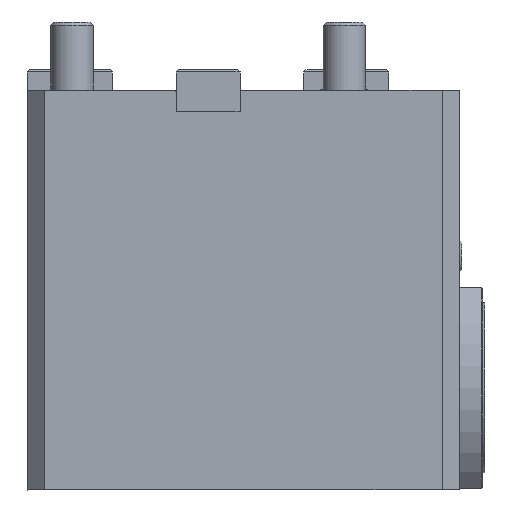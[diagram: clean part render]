
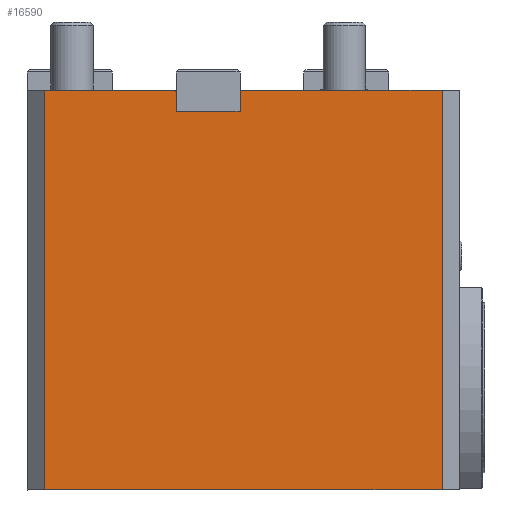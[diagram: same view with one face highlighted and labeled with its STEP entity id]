
A CAD part, front view. The second image highlights one B-rep face of the part: STEP entity #16590.
In plain terms, the highlighted planar face has unit normal (0, -1, 0) as drawn and (0, 0, 1) by its records, which use the part's own axes.
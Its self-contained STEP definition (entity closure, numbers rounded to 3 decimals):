
#8133=ORIENTED_EDGE('',*,*,#10606,.T.);
#8134=ORIENTED_EDGE('',*,*,#10656,.T.);
#8135=ORIENTED_EDGE('',*,*,#10647,.T.);
#8136=ORIENTED_EDGE('',*,*,#10651,.T.);
#8137=ORIENTED_EDGE('',*,*,#10653,.F.);
#8138=ORIENTED_EDGE('',*,*,#10654,.F.);
#8139=ORIENTED_EDGE('',*,*,#10657,.F.);
#8140=ORIENTED_EDGE('',*,*,#10658,.T.);
#8141=ORIENTED_EDGE('',*,*,#10659,.T.);
#8142=ORIENTED_EDGE('',*,*,#10660,.F.);
#9316=VECTOR('',#12364,1.);
#9344=VECTOR('',#12448,1.);
#9347=VECTOR('',#12455,1.);
#9349=VECTOR('',#12459,1.);
#9350=VECTOR('',#12462,1.);
#9352=VECTOR('',#12466,1.);
#9353=VECTOR('',#12467,1.);
#9354=VECTOR('',#12468,1.);
#9355=VECTOR('',#12469,1.);
#9356=VECTOR('',#12470,1.);
#9706=LINE('',#14237,#9316);
#9734=LINE('',#14318,#9344);
#9737=LINE('',#14325,#9347);
#9739=LINE('',#14329,#9349);
#9740=LINE('',#14332,#9350);
#9742=LINE('',#14335,#9352);
#9743=LINE('',#14337,#9353);
#9744=LINE('',#14339,#9354);
#9745=LINE('',#14341,#9355);
#9746=LINE('',#14342,#9356);
#10075=VERTEX_POINT('',#14234);
#10076=VERTEX_POINT('',#14236);
#10100=VERTEX_POINT('',#14315);
#10101=VERTEX_POINT('',#14317);
#10103=VERTEX_POINT('',#14323);
#10104=VERTEX_POINT('',#14327);
#10105=VERTEX_POINT('',#14331);
#10106=VERTEX_POINT('',#14336);
#10107=VERTEX_POINT('',#14338);
#10108=VERTEX_POINT('',#14340);
#10606=EDGE_CURVE('',#10076,#10075,#9706,.T.);
#10647=EDGE_CURVE('',#10101,#10100,#9734,.T.);
#10651=EDGE_CURVE('',#10100,#10103,#9737,.T.);
#10653=EDGE_CURVE('',#10104,#10103,#9739,.T.);
#10654=EDGE_CURVE('',#10105,#10104,#9740,.T.);
#10656=EDGE_CURVE('',#10075,#10101,#9742,.T.);
#10657=EDGE_CURVE('',#10106,#10105,#9743,.T.);
#10658=EDGE_CURVE('',#10106,#10107,#9744,.T.);
#10659=EDGE_CURVE('',#10107,#10108,#9745,.T.);
#10660=EDGE_CURVE('',#10076,#10108,#9746,.T.);
#11242=EDGE_LOOP('',(#8133,#8134,#8135,#8136,#8137,#8138,#8139,#8140,#8141,
#8142));
#11704=FACE_BOUND('',#11242,.T.);
#12364=DIRECTION('',(93.5,0.,0.));
#12448=DIRECTION('',(-47.211,0.,0.));
#12455=DIRECTION('',(-0.289,-0.5,0.));
#12459=DIRECTION('',(0.,4.5,0.));
#12462=DIRECTION('',(15.,0.,0.));
#12464=DIRECTION('',(0.,0.,1.));
#12465=DIRECTION('',(0.,-1.,0.));
#12466=DIRECTION('',(0.,94.,0.));
#12467=DIRECTION('',(0.,-4.5,0.));
#12468=DIRECTION('',(-0.289,0.5,0.));
#12469=DIRECTION('',(-30.711,0.,0.));
#12470=DIRECTION('',(0.,94.,0.));
#14234=CARTESIAN_POINT('',(55.,-93.,42.5));
#14236=CARTESIAN_POINT('',(-38.5,-93.,42.5));
#14237=CARTESIAN_POINT('',(-38.5,-93.,42.5));
#14315=CARTESIAN_POINT('',(7.789,1.,42.5));
#14317=CARTESIAN_POINT('',(55.,1.,42.5));
#14318=CARTESIAN_POINT('',(55.,1.,42.5));
#14323=CARTESIAN_POINT('',(7.5,0.5,42.5));
#14325=CARTESIAN_POINT('',(7.789,1.,42.5));
#14327=CARTESIAN_POINT('',(7.5,-4.,42.5));
#14329=CARTESIAN_POINT('',(7.5,-4.,42.5));
#14331=CARTESIAN_POINT('',(-7.5,-4.,42.5));
#14332=CARTESIAN_POINT('',(-7.5,-4.,42.5));
#14334=CARTESIAN_POINT('',(-38.5,-93.,42.5));
#14335=CARTESIAN_POINT('',(55.,-93.,42.5));
#14336=CARTESIAN_POINT('',(-7.5,0.5,42.5));
#14337=CARTESIAN_POINT('',(-7.5,0.5,42.5));
#14338=CARTESIAN_POINT('',(-7.789,1.,42.5));
#14339=CARTESIAN_POINT('',(-7.5,0.5,42.5));
#14340=CARTESIAN_POINT('',(-38.5,1.,42.5));
#14341=CARTESIAN_POINT('',(-7.789,1.,42.5));
#14342=CARTESIAN_POINT('',(-38.5,-93.,42.5));
#15666=AXIS2_PLACEMENT_3D('',#14334,#12464,#12465);
#16351=PLANE('',#15666);
#16590=ADVANCED_FACE('',(#11704),#16351,.T.);
